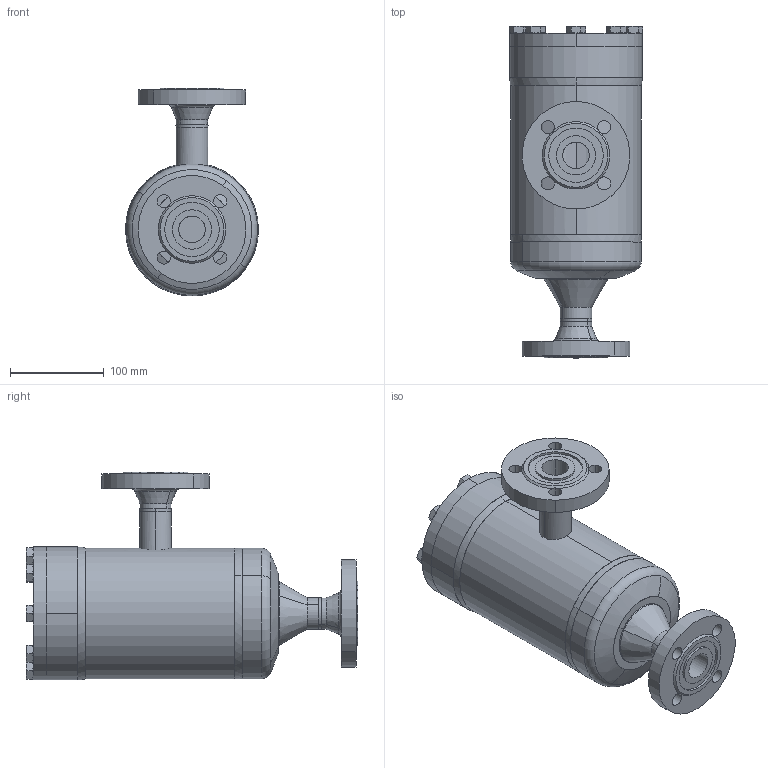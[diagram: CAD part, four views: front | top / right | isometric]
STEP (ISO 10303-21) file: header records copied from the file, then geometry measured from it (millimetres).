
FILE_DESCRIPTION (( 'STEP AP214' ), '1' );
FILE_NAME ('FT56720D12-DN25-1_DIN-FL-N_PS40.STEP', '2010-09-13T08:44:32', ( 'Eckhard Grams' ), ( 'AWP Kälte Klima Armaturen GmbH' ), 'SwSTEP 2.0', 'SolidWorks 2002296', '' );
FILE_SCHEMA (( 'AUTOMOTIVE_DESIGN' ));
Length unit declared in the file: millimetre
Products named in the file (18): FT56720D12-DN25-1_DIN-FL-N_PS40; Flansch-DIN2635-Nut_PS40_DIN-Flansch-DN025_PS40-Nut; FT56700D12-DN25-1_PS40_Standard; Geh-kpl-FT-DN25-1_Standard; Gehäuse-FT-DN20-50_PS40_25-1; Rohrstutzen-FT-DN20-80_DN 25; FT Boden-Führungsrohr DN25_PS25_Standard; Boden-FT-DN20-80_DN 20 bis 50-4 PN 40; Führungsrohr-FT-DN20-50_DN 25; bead-Bo-Fü-20-50_Standard; Kopfstück-FT-DN20-50_PS40_Standard; bead25-Geh-Ko1_Standard; bead25-Geh-Bo1_Standard; FT Deckel-Schrauben-DN20-50_PS25_Standard; Deckel56700E15-DN20-50_PS40_Standard; Sechskantschraube-DIN933_M12x 30; bead56720-25-1b_Standard; bead56720-25-1a_Standard
Assembly tree (25 placements, depth 5):
  FT56720D12-DN25-1_DIN-FL-N_PS40
    Flansch-DIN2635-Nut_PS40_DIN-Flansch-DN025_PS40-Nut  x2
    FT56700D12-DN25-1_PS40_Standard
      Geh-kpl-FT-DN25-1_Standard
        FT Boden-Führungsrohr DN25_PS25_Standard
          Führungsrohr-FT-DN20-50_DN 25
          bead-Bo-Fü-20-50_Standard
          Boden-FT-DN20-80_DN 20 bis 50-4 PN 40
        Kopfstück-FT-DN20-50_PS40_Standard
        Gehäuse-FT-DN20-50_PS40_25-1
        Rohrstutzen-FT-DN20-80_DN 25
        bead25-Geh-Ko1_Standard
        bead25-Geh-Bo1_Standard
      FT Deckel-Schrauben-DN20-50_PS25_Standard
        Sechskantschraube-DIN933_M12x 30  x8
        Deckel56700E15-DN20-50_PS40_Standard
    bead56720-25-1a_Standard
    bead56720-25-1b_Standard
Bounding box: 142.78 x 354.28 x 222 mm (x, y, z)
Volume: 1645494.5 mm3; surface area: 445413.7 mm2
Topology: 21 solids, 21 shells, 481 faces, 1082 edges, 646 vertices
Faces by surface type: cone 190, cylinder 145, plane 110, bspline 20, torus 12, sphere 4
Entity records: 14821 total; most frequent: CARTESIAN_POINT 7767, DIRECTION 1378, ORIENTED_EDGE 1240, EDGE_CURVE 620, AXIS2_PLACEMENT_3D 592, VERTEX_POINT 384, EDGE_LOOP 338, CIRCLE 306
